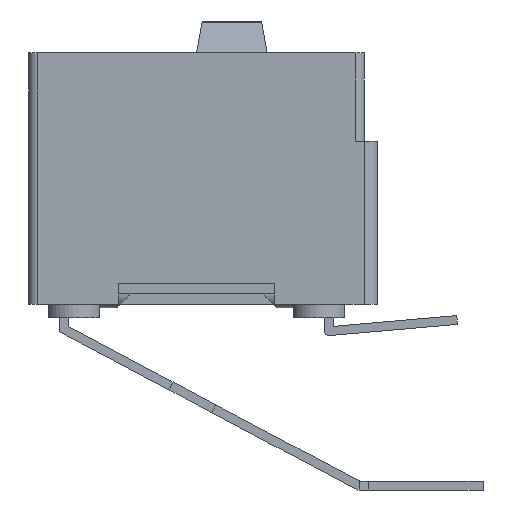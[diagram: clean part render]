
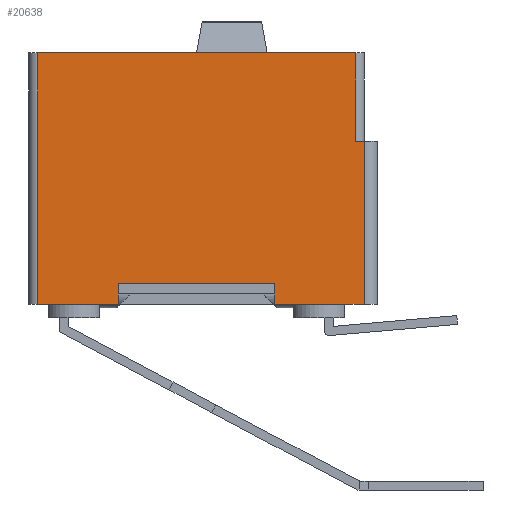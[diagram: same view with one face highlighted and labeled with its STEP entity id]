
A CAD part, left-side view. The second image highlights one B-rep face of the part: STEP entity #20638.
In plain terms, the highlighted planar face has unit normal (-1, 0, 0).
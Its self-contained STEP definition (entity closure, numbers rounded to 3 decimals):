
#932 = ORIENTED_EDGE ( 'NONE', *, *, #32174, .T. ) ;
#984 = CARTESIAN_POINT ( 'NONE',  ( 0., -9.402, -2.54 ) ) ;
#1590 = LINE ( 'NONE', #15677, #24998 ) ;
#1638 = DIRECTION ( 'NONE',  ( 0., 0., -1. ) ) ;
#3365 = CARTESIAN_POINT ( 'NONE',  ( 0., -0.25, -7.239 ) ) ;
#3640 = VERTEX_POINT ( 'NONE', #18834 ) ;
#3855 = DIRECTION ( 'NONE',  ( 0., -1., 0. ) ) ;
#4292 = CARTESIAN_POINT ( 'NONE',  ( 0., -2.576, -6.639 ) ) ;
#4423 = DIRECTION ( 'NONE',  ( 0., -1., 0. ) ) ;
#4591 = VECTOR ( 'NONE', #1638, 1000. ) ;
#5546 = ORIENTED_EDGE ( 'NONE', *, *, #9290, .T. ) ;
#6201 = CARTESIAN_POINT ( 'NONE',  ( 0., -7.076, -6.639 ) ) ;
#6329 = CARTESIAN_POINT ( 'NONE',  ( 0., -9.402, -2.54 ) ) ;
#6521 = PLANE ( 'NONE',  #15747 ) ;
#6548 = VECTOR ( 'NONE', #32214, 1000. ) ;
#6828 = ORIENTED_EDGE ( 'NONE', *, *, #10144, .F. ) ;
#7174 = LINE ( 'NONE', #20899, #26686 ) ;
#7756 = EDGE_CURVE ( 'NONE', #16953, #9025, #1590, .T. ) ;
#7880 = DIRECTION ( 'NONE',  ( 0., 0., 1. ) ) ;
#8490 = DIRECTION ( 'NONE',  ( 0., 0., -1. ) ) ;
#8927 = DIRECTION ( 'NONE',  ( 0., 1., 0. ) ) ;
#9025 = VERTEX_POINT ( 'NONE', #33817 ) ;
#9150 = VECTOR ( 'NONE', #27594, 1000. ) ;
#9290 = EDGE_CURVE ( 'NONE', #10310, #24386, #7174, .T. ) ;
#9957 = EDGE_CURVE ( 'NONE', #10817, #24386, #18676, .T. ) ;
#10144 = EDGE_CURVE ( 'NONE', #32278, #9025, #25234, .T. ) ;
#10310 = VERTEX_POINT ( 'NONE', #984 ) ;
#10817 = VERTEX_POINT ( 'NONE', #26856 ) ;
#10836 = VECTOR ( 'NONE', #33140, 1000. ) ;
#11598 = CARTESIAN_POINT ( 'NONE',  ( 0., -2.576, -6.639 ) ) ;
#12481 = VECTOR ( 'NONE', #14840, 1000. ) ;
#12867 = ORIENTED_EDGE ( 'NONE', *, *, #22301, .T. ) ;
#13165 = ORIENTED_EDGE ( 'NONE', *, *, #32578, .F. ) ;
#13592 = LINE ( 'NONE', #11598, #35229 ) ;
#13736 = CARTESIAN_POINT ( 'NONE',  ( 0., -2.576, -7.239 ) ) ;
#13830 = EDGE_CURVE ( 'NONE', #34047, #10817, #33560, .T. ) ;
#14815 = VECTOR ( 'NONE', #19160, 1000. ) ;
#14840 = DIRECTION ( 'NONE',  ( 0., 0., 1. ) ) ;
#15677 = CARTESIAN_POINT ( 'NONE',  ( 0., -0.25, -7.239 ) ) ;
#15747 = AXIS2_PLACEMENT_3D ( 'NONE', #17416, #28277, #3855 ) ;
#16337 = VECTOR ( 'NONE', #28713, 1000. ) ;
#16953 = VERTEX_POINT ( 'NONE', #32692 ) ;
#17416 = CARTESIAN_POINT ( 'NONE',  ( 0., -0.25, -7.239 ) ) ;
#17739 = ORIENTED_EDGE ( 'NONE', *, *, #29098, .F. ) ;
#18052 = ORIENTED_EDGE ( 'NONE', *, *, #24021, .T. ) ;
#18676 = LINE ( 'NONE', #26853, #6548 ) ;
#18810 = VERTEX_POINT ( 'NONE', #13736 ) ;
#18834 = CARTESIAN_POINT ( 'NONE',  ( 0., -2.576, -6.639 ) ) ;
#19160 = DIRECTION ( 'NONE',  ( 0., -1., 0. ) ) ;
#19345 = CARTESIAN_POINT ( 'NONE',  ( 0., -0.25, -7.239 ) ) ;
#19835 = VECTOR ( 'NONE', #22914, 1000. ) ;
#20535 = LINE ( 'NONE', #31577, #16337 ) ;
#20638 = ADVANCED_FACE ( 'NONE', ( #31133 ), #6521, .T. ) ;
#20899 = CARTESIAN_POINT ( 'NONE',  ( 0., -9.402, -7.239 ) ) ;
#21862 = ORIENTED_EDGE ( 'NONE', *, *, #9957, .F. ) ;
#22301 = EDGE_CURVE ( 'NONE', #32278, #10310, #30766, .T. ) ;
#22395 = VERTEX_POINT ( 'NONE', #27161 ) ;
#22914 = DIRECTION ( 'NONE',  ( 0., 1., 0. ) ) ;
#23644 = VECTOR ( 'NONE', #8490, 1000. ) ;
#23736 = LINE ( 'NONE', #4292, #4591 ) ;
#24021 = EDGE_CURVE ( 'NONE', #26728, #18810, #30813, .T. ) ;
#24386 = VERTEX_POINT ( 'NONE', #29849 ) ;
#24807 = CARTESIAN_POINT ( 'NONE',  ( 0., -0.25, -7.239 ) ) ;
#24998 = VECTOR ( 'NONE', #4423, 1000. ) ;
#25039 = CARTESIAN_POINT ( 'NONE',  ( 0., -7.076, -7.239 ) ) ;
#25234 = LINE ( 'NONE', #33423, #23644 ) ;
#25522 = CARTESIAN_POINT ( 'NONE',  ( 0., -0.25, -7.239 ) ) ;
#26447 = ORIENTED_EDGE ( 'NONE', *, *, #26906, .T. ) ;
#26686 = VECTOR ( 'NONE', #7880, 1000. ) ;
#26728 = VERTEX_POINT ( 'NONE', #33027 ) ;
#26853 = CARTESIAN_POINT ( 'NONE',  ( 0., -0.25, 0. ) ) ;
#26856 = CARTESIAN_POINT ( 'NONE',  ( 0., -0.25, 0. ) ) ;
#26906 = EDGE_CURVE ( 'NONE', #34557, #16953, #20535, .T. ) ;
#27161 = CARTESIAN_POINT ( 'NONE',  ( 0., -7.076, -6.639 ) ) ;
#27594 = DIRECTION ( 'NONE',  ( 0., 0., -1. ) ) ;
#27884 = CARTESIAN_POINT ( 'NONE',  ( 0., -9.652, -2.54 ) ) ;
#28277 = DIRECTION ( 'NONE',  ( -1., 0., 0. ) ) ;
#28713 = DIRECTION ( 'NONE',  ( 0., -1., 0. ) ) ;
#28766 = EDGE_LOOP ( 'NONE', ( #13165, #17739, #31392, #26447, #33260, #6828, #12867, #5546, #21862, #32140, #932, #18052 ) ) ;
#29098 = EDGE_CURVE ( 'NONE', #22395, #3640, #13592, .T. ) ;
#29849 = CARTESIAN_POINT ( 'NONE',  ( 0., -9.402, 0. ) ) ;
#30630 = LINE ( 'NONE', #6201, #9150 ) ;
#30766 = LINE ( 'NONE', #6329, #19835 ) ;
#30813 = LINE ( 'NONE', #3365, #10836 ) ;
#31133 = FACE_OUTER_BOUND ( 'NONE', #28766, .T. ) ;
#31392 = ORIENTED_EDGE ( 'NONE', *, *, #33052, .T. ) ;
#31577 = CARTESIAN_POINT ( 'NONE',  ( 0., -0.25, -7.239 ) ) ;
#32140 = ORIENTED_EDGE ( 'NONE', *, *, #13830, .F. ) ;
#32174 = EDGE_CURVE ( 'NONE', #34047, #26728, #32367, .T. ) ;
#32214 = DIRECTION ( 'NONE',  ( 0., -1., 0. ) ) ;
#32278 = VERTEX_POINT ( 'NONE', #27884 ) ;
#32367 = LINE ( 'NONE', #19345, #14815 ) ;
#32578 = EDGE_CURVE ( 'NONE', #3640, #18810, #23736, .T. ) ;
#32692 = CARTESIAN_POINT ( 'NONE',  ( 0., -8.357, -7.239 ) ) ;
#33027 = CARTESIAN_POINT ( 'NONE',  ( 0., -1.295, -7.239 ) ) ;
#33052 = EDGE_CURVE ( 'NONE', #22395, #34557, #30630, .T. ) ;
#33140 = DIRECTION ( 'NONE',  ( 0., -1., 0. ) ) ;
#33260 = ORIENTED_EDGE ( 'NONE', *, *, #7756, .T. ) ;
#33423 = CARTESIAN_POINT ( 'NONE',  ( 0., -9.652, -2.54 ) ) ;
#33560 = LINE ( 'NONE', #25522, #12481 ) ;
#33817 = CARTESIAN_POINT ( 'NONE',  ( 0., -9.652, -7.239 ) ) ;
#34047 = VERTEX_POINT ( 'NONE', #24807 ) ;
#34557 = VERTEX_POINT ( 'NONE', #25039 ) ;
#35229 = VECTOR ( 'NONE', #8927, 1000. ) ;
